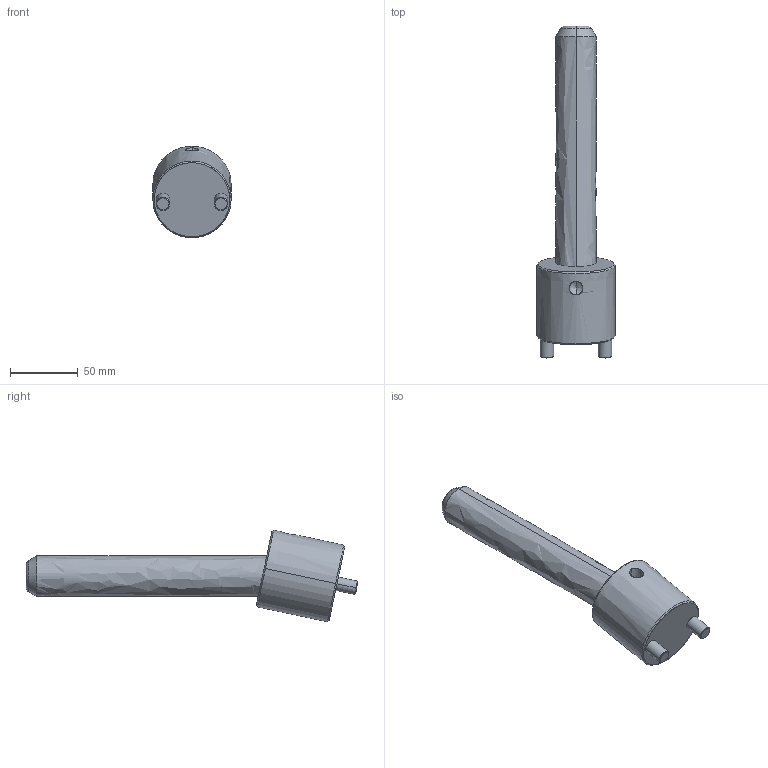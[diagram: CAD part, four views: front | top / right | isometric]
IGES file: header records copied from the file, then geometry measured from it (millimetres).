
Start section: START RECORD GO HERE.
Global section: file name: CI1230175.igs; native system: DASSAULT SYSTEMES CATIA V5 R20 - www.3ds.com; preprocessor: CATIA Version 5 Release 20 ; author: r.borello; organization: CFTORINO; date: 20190621.161013; units: millimetre
Bounding box: 58 x 245.65 x 67.75 mm (x, y, z)
Surface area: 42601.9 mm2 (no closed solid volume)
Topology: 0 solids, 0 shells, 39 faces, 162 edges, 160 vertices
Faces by surface type: revolution 32, plane 7
